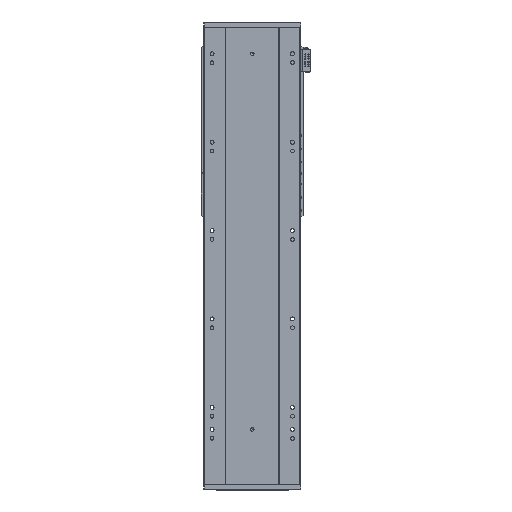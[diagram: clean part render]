
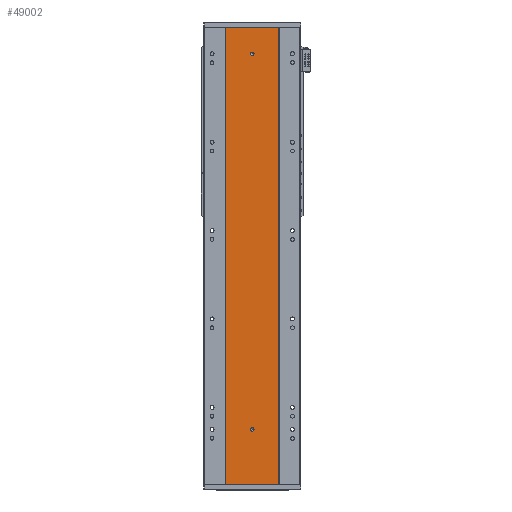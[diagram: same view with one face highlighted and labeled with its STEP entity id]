
A CAD part, front view. The second image highlights one B-rep face of the part: STEP entity #49002.
In plain terms, the highlighted planar face has unit normal (0, -1, 0).
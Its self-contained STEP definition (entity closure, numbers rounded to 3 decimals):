
#44 = EDGE_CURVE ( 'NONE', #55281, #24042, #41660, .T. ) ;
#740 = CARTESIAN_POINT ( 'NONE',  ( -60., 0., 0. ) ) ;
#1072 = CARTESIAN_POINT ( 'NONE',  ( 0., 0., 129. ) ) ;
#2300 = VERTEX_POINT ( 'NONE', #13810 ) ;
#5679 = ORIENTED_EDGE ( 'NONE', *, *, #44, .F. ) ;
#6182 = ORIENTED_EDGE ( 'NONE', *, *, #36204, .T. ) ;
#8311 = DIRECTION ( 'NONE',  ( 0., -1., 0. ) ) ;
#8496 = CARTESIAN_POINT ( 'NONE',  ( 60., 0., 1035. ) ) ;
#8512 = CIRCLE ( 'NONE', #45887, 4. ) ;
#9166 = ORIENTED_EDGE ( 'NONE', *, *, #23208, .F. ) ;
#10051 = DIRECTION ( 'NONE',  ( 1., 0., 0. ) ) ;
#10954 = CARTESIAN_POINT ( 'NONE',  ( -60., 0., 1035. ) ) ;
#10995 = CARTESIAN_POINT ( 'NONE',  ( 60., 0., 0. ) ) ;
#11168 = EDGE_LOOP ( 'NONE', ( #5679, #9166 ) ) ;
#13810 = CARTESIAN_POINT ( 'NONE',  ( 0., 0., 971. ) ) ;
#13943 = VERTEX_POINT ( 'NONE', #10995 ) ;
#14132 = VERTEX_POINT ( 'NONE', #44833 ) ;
#14243 = CARTESIAN_POINT ( 'NONE',  ( -60., 0., 1035. ) ) ;
#15250 = FACE_BOUND ( 'NONE', #57696, .T. ) ;
#15280 = DIRECTION ( 'NONE',  ( 0., 0., 1. ) ) ;
#17876 = VERTEX_POINT ( 'NONE', #740 ) ;
#18075 = CARTESIAN_POINT ( 'NONE',  ( 0., 0., 121. ) ) ;
#18500 = EDGE_CURVE ( 'NONE', #14132, #2300, #8512, .T. ) ;
#19502 = PLANE ( 'NONE',  #36681 ) ;
#19789 = ORIENTED_EDGE ( 'NONE', *, *, #18500, .F. ) ;
#23208 = EDGE_CURVE ( 'NONE', #24042, #55281, #40854, .T. ) ;
#24042 = VERTEX_POINT ( 'NONE', #1072 ) ;
#24272 = DIRECTION ( 'NONE',  ( 0., 1., 0. ) ) ;
#24339 = ORIENTED_EDGE ( 'NONE', *, *, #53375, .F. ) ;
#24716 = VERTEX_POINT ( 'NONE', #37107 ) ;
#25404 = VECTOR ( 'NONE', #41249, 1000. ) ;
#26259 = LINE ( 'NONE', #14243, #36943 ) ;
#27094 = CARTESIAN_POINT ( 'NONE',  ( 60., 0., 1035. ) ) ;
#28305 = DIRECTION ( 'NONE',  ( 0., 0., -1. ) ) ;
#28512 = CARTESIAN_POINT ( 'NONE',  ( 0., 0., 975. ) ) ;
#29499 = FACE_BOUND ( 'NONE', #11168, .T. ) ;
#30732 = VECTOR ( 'NONE', #42226, 1000. ) ;
#30778 = DIRECTION ( 'NONE',  ( 0., 0., -1. ) ) ;
#31039 = ORIENTED_EDGE ( 'NONE', *, *, #31319, .F. ) ;
#31247 = VECTOR ( 'NONE', #33390, 1000. ) ;
#31319 = EDGE_CURVE ( 'NONE', #55222, #13943, #49664, .T. ) ;
#32588 = AXIS2_PLACEMENT_3D ( 'NONE', #33305, #42669, #33690 ) ;
#33305 = CARTESIAN_POINT ( 'NONE',  ( 0., 0., 125. ) ) ;
#33390 = DIRECTION ( 'NONE',  ( 1., 0., 0. ) ) ;
#33581 = CARTESIAN_POINT ( 'NONE',  ( -60., 0., 0. ) ) ;
#33690 = DIRECTION ( 'NONE',  ( 0., 0., -1. ) ) ;
#35640 = ORIENTED_EDGE ( 'NONE', *, *, #35777, .F. ) ;
#35777 = EDGE_CURVE ( 'NONE', #2300, #14132, #49903, .T. ) ;
#36204 = EDGE_CURVE ( 'NONE', #17876, #13943, #38411, .T. ) ;
#36681 = AXIS2_PLACEMENT_3D ( 'NONE', #51156, #24272, #15280 ) ;
#36943 = VECTOR ( 'NONE', #10051, 1000. ) ;
#37107 = CARTESIAN_POINT ( 'NONE',  ( -60., 0., 1035. ) ) ;
#37621 = AXIS2_PLACEMENT_3D ( 'NONE', #49569, #8311, #30778 ) ;
#38411 = LINE ( 'NONE', #33581, #31247 ) ;
#38916 = AXIS2_PLACEMENT_3D ( 'NONE', #43414, #51633, #52013 ) ;
#40694 = EDGE_CURVE ( 'NONE', #24716, #17876, #55777, .T. ) ;
#40854 = CIRCLE ( 'NONE', #37621, 4. ) ;
#41249 = DIRECTION ( 'NONE',  ( 0., 0., -1. ) ) ;
#41660 = CIRCLE ( 'NONE', #32588, 4. ) ;
#42226 = DIRECTION ( 'NONE',  ( 0., 0., -1. ) ) ;
#42669 = DIRECTION ( 'NONE',  ( 0., -1., 0. ) ) ;
#43414 = CARTESIAN_POINT ( 'NONE',  ( 0., 0., 975. ) ) ;
#44292 = EDGE_LOOP ( 'NONE', ( #6182, #31039, #24339, #56713 ) ) ;
#44833 = CARTESIAN_POINT ( 'NONE',  ( 0., 0., 979. ) ) ;
#45887 = AXIS2_PLACEMENT_3D ( 'NONE', #28512, #46878, #28305 ) ;
#46878 = DIRECTION ( 'NONE',  ( 0., -1., 0. ) ) ;
#49002 = ADVANCED_FACE ( 'NONE', ( #15250, #29499, #49511 ), #19502, .F. ) ;
#49511 = FACE_OUTER_BOUND ( 'NONE', #44292, .T. ) ;
#49569 = CARTESIAN_POINT ( 'NONE',  ( 0., 0., 125. ) ) ;
#49664 = LINE ( 'NONE', #27094, #25404 ) ;
#49903 = CIRCLE ( 'NONE', #38916, 4. ) ;
#51156 = CARTESIAN_POINT ( 'NONE',  ( -60., 0., 1035. ) ) ;
#51633 = DIRECTION ( 'NONE',  ( 0., -1., 0. ) ) ;
#52013 = DIRECTION ( 'NONE',  ( 0., 0., -1. ) ) ;
#53375 = EDGE_CURVE ( 'NONE', #24716, #55222, #26259, .T. ) ;
#55222 = VERTEX_POINT ( 'NONE', #8496 ) ;
#55281 = VERTEX_POINT ( 'NONE', #18075 ) ;
#55777 = LINE ( 'NONE', #10954, #30732 ) ;
#56713 = ORIENTED_EDGE ( 'NONE', *, *, #40694, .T. ) ;
#57696 = EDGE_LOOP ( 'NONE', ( #35640, #19789 ) ) ;
